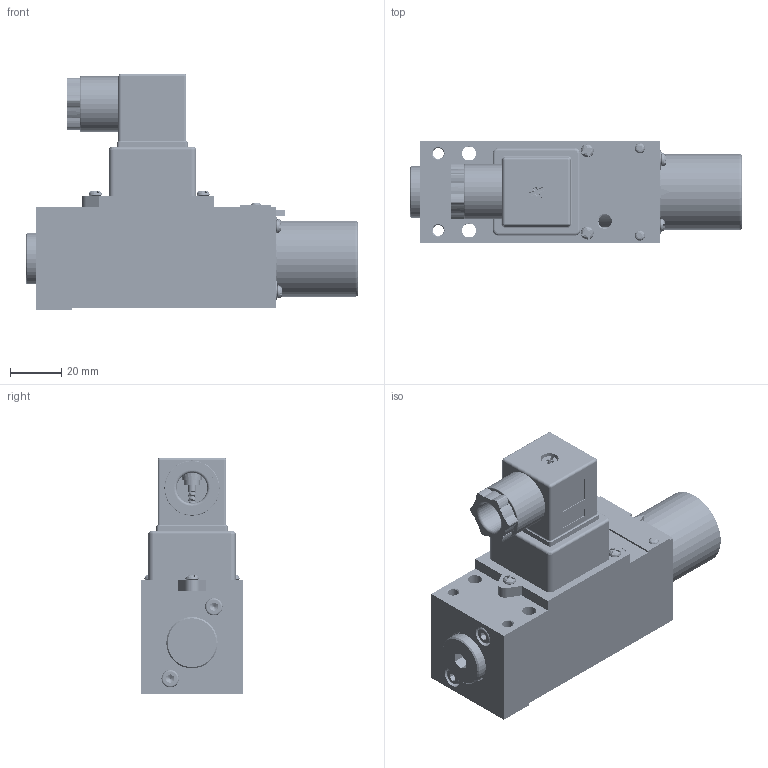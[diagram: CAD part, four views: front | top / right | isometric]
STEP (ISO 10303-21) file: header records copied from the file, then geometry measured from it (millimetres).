
FILE_DESCRIPTION(/* description */ (''),/* implementation_level */ '2;1');
FILE_NAME(/* name */ 'HED4-OP压力继电器.prt.stp',/* time_stamp */ '2022-03-30T19:54:03+08:00',/* author */ (''),/* organization */ (''),/* preprocessor_version */ 'ST-DEVELOPER v16.7',/* originating_system */ 'SIEMENS PLM Software NX 12.0',/* authorisation */ '');
FILE_SCHEMA (('AUTOMOTIVE_DESIGN { 1 0 10303 214 3 1 1 1 }'));
Products named in the file (1): HED4-OP压力继电器
Bounding box: 129.3 x 40 x 92 mm (x, y, z)
Volume: 61184.8 mm3; surface area: 67713.7 mm2
Topology: 22 solids, 27 shells, 1148 faces, 3029 edges, 1974 vertices
Faces by surface type: plane 480, cylinder 438, bspline 90, extrusion 69, cone 47, torus 20, sphere 4
Full cylindrical faces by diameter (mm): 0.653 x1, 0.665 x1, 1.76 x1, 1.8 x2, 1.9 x2, 2 x2, 2.55 x84, 3 x138, 3.4 x16, 3.5 x8, 4 x1, 4.3 x4, 5 x3, 5.5 x2, 6 x3, 6.78 x2, 7 x1, 8 x3, 9.8 x1, 10 x1, 12 x1, 12.5 x2, 13 x1, 14 x1, 14.3 x1, 16.5 x1, 17.5 x2, 18.3 x1, 19 x2, 19.7 x1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
Entity records: 133967 total; most frequent: CARTESIAN_POINT 113222, ORIENTED_EDGE 4194, DIRECTION 3658, EDGE_CURVE 2097, VERTEX_POINT 1443, AXIS2_PLACEMENT_3D 1245, VECTOR 1168, EDGE_LOOP 1165
